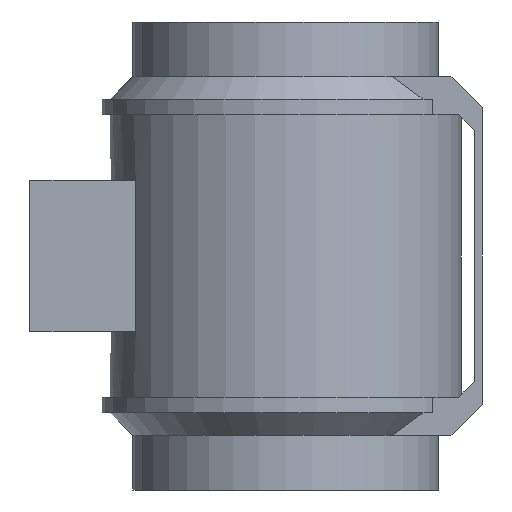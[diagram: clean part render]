
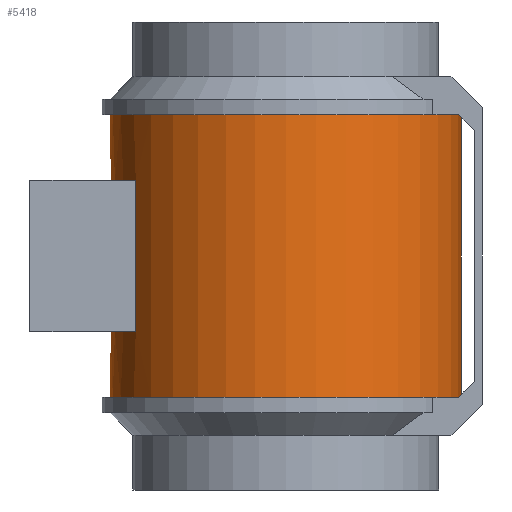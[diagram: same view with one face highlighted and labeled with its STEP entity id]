
A CAD part, front view. The second image highlights one B-rep face of the part: STEP entity #5418.
In plain terms, the highlighted cylindrical face has radius 112.5 mm (diameter 225 mm), a full revolution.
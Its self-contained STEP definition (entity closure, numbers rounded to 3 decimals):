
#149=FACE_BOUND('',#1000,.T.);
#207=CYLINDRICAL_SURFACE('',#5758,112.5);
#501=CIRCLE('',#5750,112.5);
#502=CIRCLE('',#5753,112.5);
#505=CIRCLE('',#5759,112.5);
#506=CIRCLE('',#5760,112.5);
#507=CIRCLE('',#5761,112.5);
#508=CIRCLE('',#5762,112.5);
#685=FACE_OUTER_BOUND('',#999,.T.);
#999=EDGE_LOOP('',(#3671,#3672,#3673,#3674,#3675,#3676));
#1000=EDGE_LOOP('',(#3677,#3678,#3679,#3680));
#1364=LINE('',#7636,#1872);
#1370=LINE('',#7650,#1878);
#1375=LINE('',#7670,#1883);
#1872=VECTOR('',#6210,10.);
#1878=VECTOR('',#6222,10.);
#1883=VECTOR('',#6245,112.5);
#2380=VERTEX_POINT('',#7634);
#2381=VERTEX_POINT('',#7635);
#2384=VERTEX_POINT('',#7643);
#2386=VERTEX_POINT('',#7649);
#2390=VERTEX_POINT('',#7665);
#2391=VERTEX_POINT('',#7666);
#2392=VERTEX_POINT('',#7669);
#2393=VERTEX_POINT('',#7671);
#2883=EDGE_CURVE('',#2380,#2381,#1364,.T.);
#2887=EDGE_CURVE('',#2381,#2384,#501,.T.);
#2890=EDGE_CURVE('',#2384,#2386,#1370,.T.);
#2893=EDGE_CURVE('',#2386,#2380,#502,.T.);
#2898=EDGE_CURVE('',#2390,#2391,#505,.T.);
#2899=EDGE_CURVE('',#2391,#2390,#506,.T.);
#2900=EDGE_CURVE('',#2391,#2392,#1375,.T.);
#2901=EDGE_CURVE('',#2392,#2393,#507,.T.);
#2902=EDGE_CURVE('',#2393,#2392,#508,.T.);
#3671=ORIENTED_EDGE('',*,*,#2898,.F.);
#3672=ORIENTED_EDGE('',*,*,#2899,.F.);
#3673=ORIENTED_EDGE('',*,*,#2900,.T.);
#3674=ORIENTED_EDGE('',*,*,#2901,.T.);
#3675=ORIENTED_EDGE('',*,*,#2902,.T.);
#3676=ORIENTED_EDGE('',*,*,#2900,.F.);
#3677=ORIENTED_EDGE('',*,*,#2890,.T.);
#3678=ORIENTED_EDGE('',*,*,#2893,.T.);
#3679=ORIENTED_EDGE('',*,*,#2883,.T.);
#3680=ORIENTED_EDGE('',*,*,#2887,.T.);
#5418=ADVANCED_FACE('',(#685,#149),#207,.T.);
#5750=AXIS2_PLACEMENT_3D('',#7644,#6216,#6217);
#5753=AXIS2_PLACEMENT_3D('',#7655,#6227,#6228);
#5758=AXIS2_PLACEMENT_3D('',#7664,#6239,#6240);
#5759=AXIS2_PLACEMENT_3D('',#7667,#6241,#6242);
#5760=AXIS2_PLACEMENT_3D('',#7668,#6243,#6244);
#5761=AXIS2_PLACEMENT_3D('',#7672,#6246,#6247);
#5762=AXIS2_PLACEMENT_3D('',#7673,#6248,#6249);
#6210=DIRECTION('',(0.,0.,-1.));
#6216=DIRECTION('center_axis',(0.,0.,-1.));
#6217=DIRECTION('ref_axis',(-1.,0.,0.));
#6222=DIRECTION('',(0.,0.,1.));
#6227=DIRECTION('center_axis',(0.,0.,1.));
#6228=DIRECTION('ref_axis',(-1.,0.,0.));
#6239=DIRECTION('center_axis',(0.,0.,-1.));
#6240=DIRECTION('ref_axis',(-1.,0.,0.));
#6241=DIRECTION('center_axis',(0.,0.,-1.));
#6242=DIRECTION('ref_axis',(1.,0.,0.));
#6243=DIRECTION('center_axis',(0.,0.,-1.));
#6244=DIRECTION('ref_axis',(1.,0.,0.));
#6245=DIRECTION('',(0.,0.,1.));
#6246=DIRECTION('center_axis',(0.,0.,-1.));
#6247=DIRECTION('ref_axis',(1.,0.,0.));
#6248=DIRECTION('center_axis',(0.,0.,-1.));
#6249=DIRECTION('ref_axis',(1.,0.,0.));
#7634=CARTESIAN_POINT('',(-96.094,-58.5,48.5));
#7635=CARTESIAN_POINT('',(-96.094,-58.5,-48.5));
#7636=CARTESIAN_POINT('',(-96.094,-58.5,0.));
#7643=CARTESIAN_POINT('',(-96.094,58.5,-48.5));
#7644=CARTESIAN_POINT('Origin',(0.,0.,-48.5));
#7649=CARTESIAN_POINT('',(-96.094,58.5,48.5));
#7650=CARTESIAN_POINT('',(-96.094,58.5,0.));
#7655=CARTESIAN_POINT('Origin',(0.,0.,48.5));
#7664=CARTESIAN_POINT('Origin',(0.,0.,0.));
#7665=CARTESIAN_POINT('',(-112.5,0.,-90.5));
#7666=CARTESIAN_POINT('',(112.5,0.,-90.5));
#7667=CARTESIAN_POINT('Origin',(0.,0.,-90.5));
#7668=CARTESIAN_POINT('Origin',(0.,0.,-90.5));
#7669=CARTESIAN_POINT('',(112.5,0.,90.5));
#7670=CARTESIAN_POINT('',(112.5,0.,0.));
#7671=CARTESIAN_POINT('',(-112.5,0.,90.5));
#7672=CARTESIAN_POINT('Origin',(0.,0.,90.5));
#7673=CARTESIAN_POINT('Origin',(0.,0.,90.5));
